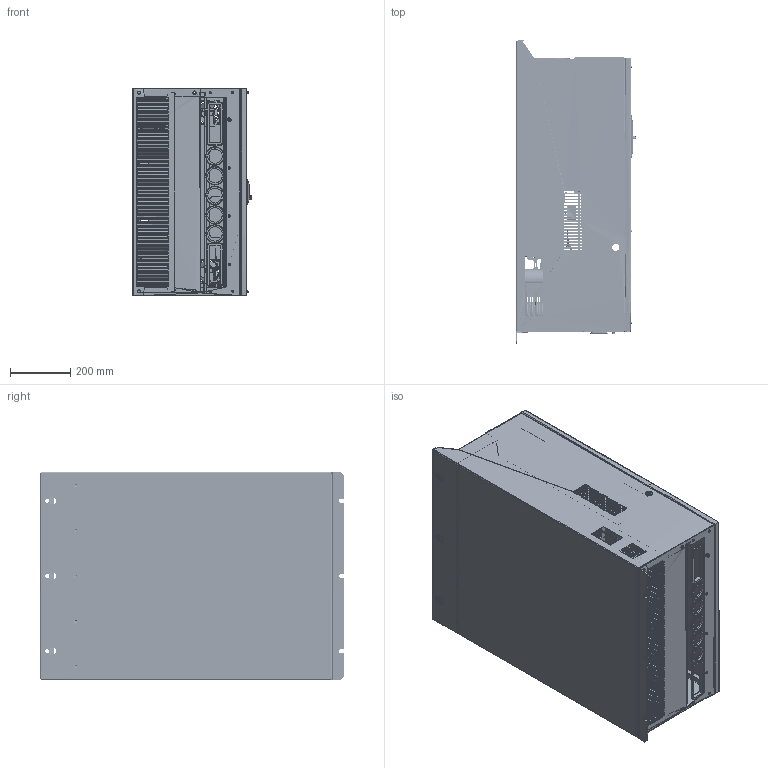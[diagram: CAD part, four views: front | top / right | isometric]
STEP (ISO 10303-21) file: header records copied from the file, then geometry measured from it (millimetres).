
FILE_DESCRIPTION (( 'STEP AP214' ), '1' );
FILE_NAME ('V2000-280KW.STEP', '2024-08-13T06:48:59', ( 'ﾏ珞褄' ), ( '' ), 'SwSTEP 2.0', 'SolidWorks 2022', '' );
FILE_SCHEMA (( 'AUTOMOTIVE_DESIGN' ));
Length unit declared in the file: millimetre
Products named in the file (71): V2000-280KW81.STEP; V2000-280KW218.STEP; V2000-280KW217.STEP; V2000-280KW30.STEP; V2000-280KW97.STEP; V2000-280KW180.STEP; V2000-280KW35.STEP; V2000-280KW212.STEP; V2000-280KW38.STEP; V2000-280KW126.STEP; V2000-280KW175.STEP; V2000-280KW150.STEP; V2000-280KW191.STEP; V2000-280KW59.STEP; V2000-280KW; V2000-280KW118.STEP; V2000-280KW221.STEP; V2000-280KW202.STEP; V2000-280KW21.STEP; V2000-280KW210.STEP; V2000-280KW214.STEP; V2000-280KW168.STEP; V2000-280KW94.STEP; V2000-280KW41.STEP; V2000-280KW90.STEP; V2000-280KW205.STEP; V2000-280KW28.STEP; V2000-280KW89.STEP; V2000-280KW138.STEP; V2000-280KW106.STEP; V2000-280KW72.STEP; V2000-280KW219.STEP; V2000-280KW183.STEP; V2000-280KW177.STEP; V2000-280KW169.STEP; V2000-280KW120.STEP; V2000-280KW.STEP; V2000-280KW216.STEP; V2000-280KW172.STEP; V2000-280KW40.STEP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
Assembly tree (70 placements, depth 3):
  V2000-280KW
    V2000-280KW.STEP
      V2000-280KW3.STEP
      V2000-280KW9.STEP
      V2000-280KW21.STEP
      V2000-280KW28.STEP
      V2000-280KW30.STEP
      V2000-280KW35.STEP
      V2000-280KW38.STEP
      V2000-280KW40.STEP
      V2000-280KW41.STEP
      V2000-280KW47.STEP
      V2000-280KW48.STEP
      V2000-280KW56.STEP
      V2000-280KW59.STEP
      V2000-280KW65.STEP
      V2000-280KW67.STEP
      V2000-280KW70.STEP
      V2000-280KW72.STEP
      V2000-280KW81.STEP
      V2000-280KW86.STEP
      V2000-280KW89.STEP
      V2000-280KW90.STEP
      V2000-280KW94.STEP
      V2000-280KW96.STEP
      V2000-280KW97.STEP
      V2000-280KW100.STEP
      V2000-280KW106.STEP
      V2000-280KW118.STEP
      V2000-280KW120.STEP
      V2000-280KW122.STEP
      V2000-280KW126.STEP
      V2000-280KW138.STEP
      V2000-280KW140.STEP
      V2000-280KW143.STEP
      V2000-280KW150.STEP
      V2000-280KW161.STEP
      V2000-280KW165.STEP
      V2000-280KW166.STEP
      V2000-280KW167.STEP
      V2000-280KW168.STEP
      V2000-280KW169.STEP
      V2000-280KW170.STEP
      V2000-280KW171.STEP
      V2000-280KW172.STEP
      V2000-280KW173.STEP
      V2000-280KW174.STEP
      V2000-280KW175.STEP
      V2000-280KW176.STEP
      V2000-280KW177.STEP
      V2000-280KW178.STEP
      V2000-280KW179.STEP
      V2000-280KW180.STEP
      V2000-280KW181.STEP
      V2000-280KW183.STEP
      V2000-280KW188.STEP
      V2000-280KW191.STEP
      V2000-280KW192.STEP
      V2000-280KW202.STEP
      V2000-280KW205.STEP
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Bounding box: 397.39 x 1009 x 690 mm (x, y, z)
Volume: 112769.4 mm3; surface area: 8756302.6 mm2
Topology: 6 solids, 110 shells, 1804 faces, 9065 edges, 6942 vertices
Faces by surface type: plane 795, cylinder 724, bspline 235, cone 50
Entity records: 164316 total; most frequent: CARTESIAN_POINT 102611, ORIENTED_EDGE 13136, EDGE_CURVE 8860, B_SPLINE_CURVE_WITH_KNOTS 8351, VERTEX_POINT 6936, DIRECTION 3266, EDGE_LOOP 3053, FACE_OUTER_BOUND 1810
